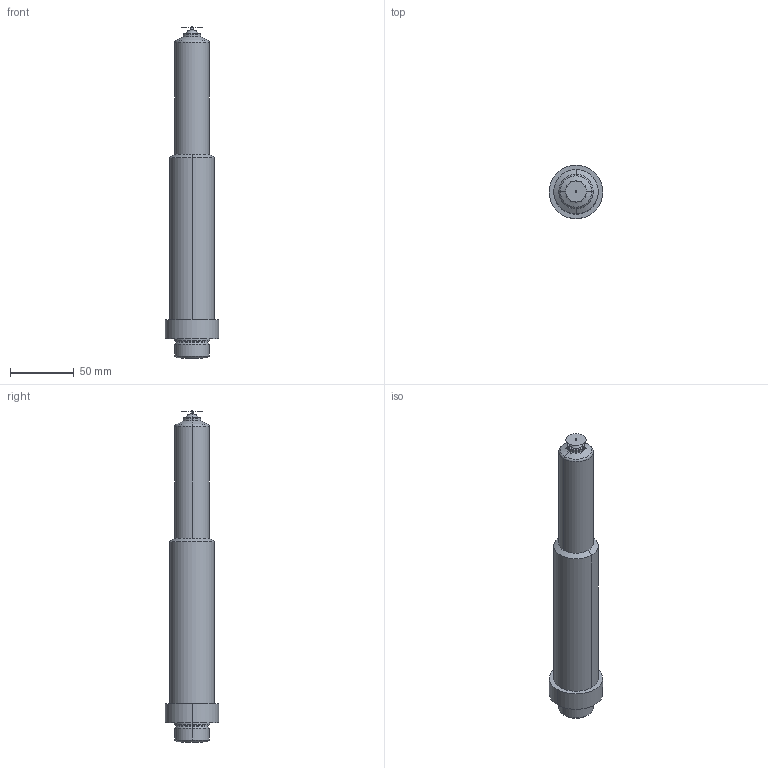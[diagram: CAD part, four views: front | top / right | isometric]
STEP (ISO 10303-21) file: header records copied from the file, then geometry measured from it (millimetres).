
FILE_DESCRIPTION (( 'STEP AP214' ), '1' );
FILE_NAME ('09EX12-03-245-VTW-C.step', '2023-04-19T08:36:47', ( '' ), ( '' ), 'SwSTEP 2.0', 'SolidWorks 2018', '' );
FILE_SCHEMA (( 'AUTOMOTIVE_DESIGN' ));
Length unit declared in the file: millimetre
Products named in the file (1): 09EX12-03-245-VTW-C
Bounding box: 42 x 42 x 261 mm (x, y, z)
Surface area: 90863.7 mm2 (no closed solid volume)
Topology: 0 solids, 5 shells, 529 faces, 1343 edges, 829 vertices
Faces by surface type: cylinder 209, plane 159, torus 85, cone 64, bspline 6, sphere 6
Entity records: 25843 total; most frequent: CARTESIAN_POINT 6986, DIRECTION 2885, ORIENTED_EDGE 2676, EDGE_CURVE 1339, AXIS2_PLACEMENT_3D 1150, VERTEX_POINT 827, CIRCLE 626, VECTOR 585
